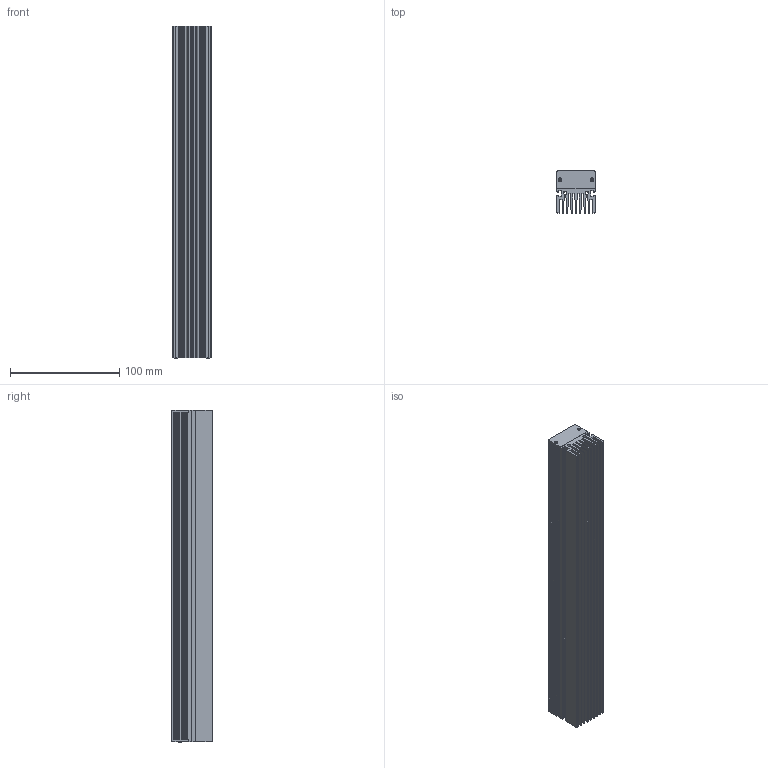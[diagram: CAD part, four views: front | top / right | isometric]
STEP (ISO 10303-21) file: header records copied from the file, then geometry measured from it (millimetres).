
FILE_DESCRIPTION((''),'2;1');
FILE_NAME('HSL','2020-03-25T',('ASUS'),(''),'PRO/ENGINEER BY PARAMETRIC TECHNOLOGY CORPORATION, 2008380','PRO/ENGINEER BY PARAMETRIC TECHNOLOGY CORPORATION, 2008380','');
FILE_SCHEMA(('CONFIG_CONTROL_DESIGN'));
Length unit declared in the file: millimetre
Products named in the file (1): HSL
Bounding box: 35 x 38 x 304 mm (x, y, z)
Volume: 281935.7 mm3; surface area: 146621.9 mm2
Topology: 1 solids, 1 shells, 171 faces, 454 edges, 300 vertices
Faces by surface type: plane 145, cylinder 18, cone 8
Entity records: 5274 total; most frequent: CARTESIAN_POINT 931, ORIENTED_EDGE 908, DIRECTION 836, EDGE_CURVE 454, VECTOR 410, LINE 410, VERTEX_POINT 300, AXIS2_PLACEMENT_3D 213
